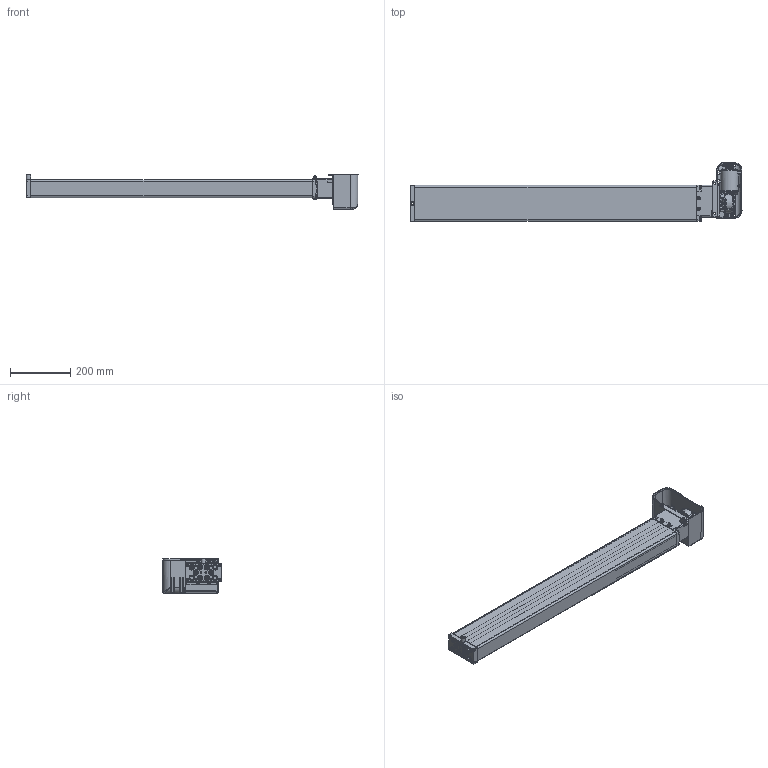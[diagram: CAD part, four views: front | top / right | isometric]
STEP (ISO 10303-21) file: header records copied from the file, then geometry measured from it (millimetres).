
FILE_DESCRIPTION(/* description */ ('Unknown'),/* implementation_level */ '2;1');
FILE_NAME(/* name */ '3X2.20267 Pumpe PB 7870 W mit Antrieb',/* time_stamp */ '2016-11-25T11:16:09+01:00',/* author */ ('Unknown'),/* organization */ ('Unknown'),/* preprocessor_version */ 'ST-DEVELOPER v16.7',/* originating_system */ 'DEX',/* authorisation */ $);
FILE_SCHEMA (('AUTOMOTIVE_DESIGN {1 0 10303 214 3 1 1}'));
Products named in the file (33): 102.00267; 115.10039; 125.00061; 115.00008; 142.00021; 125.00021; 142.00013; 125.00149; 115.00140; 126.00006; 122.00040; 119.00040; 126.00036; 127.00201; 127.00200; 127.00023; 124.00090; Getriebe; Ring; Schraube; Stator; Abdeckplatte; Antriebswelle; 128.00051; 123.00031; 142.00018; 142.00019; 142.00025; 142.00131; 123.00029; 142.00057; 142.00083; 142.00017
Assembly tree (54 placements, depth 3):
  102.00267
    115.10039  x7
      125.00061
      115.00008
      142.00021
      125.00021
    142.00013  x8
    125.00149
    115.00140
      126.00006
      122.00040
    119.00040
    126.00036
    127.00201
      127.00200
      127.00023
    124.00090
      Getriebe
      Ring
      Schraube
      Stator
      Abdeckplatte
      Antriebswelle
    128.00051
    123.00031
    142.00018  x2
    142.00019  x2
    142.00025  x2
    142.00131  x3
    123.00029
    142.00057
    142.00083  x4
    142.00017  x2
Bounding box: 1105.45 x 196.04 x 115.45 mm (x, y, z)
Volume: 1631574.6 mm3; surface area: 1092265.2 mm2
Topology: 61 solids, 63 shells, 4369 faces, 10949 edges, 6709 vertices
Faces by surface type: plane 1371, cylinder 1177, bspline 1040, cone 482, torus 202, sphere 97
Full cylindrical faces by diameter (mm): 2.5 x4, 3.2 x4, 3.5 x7, 3.9 x5, 4.1 x7, 4.134 x4, 4.2 x9, 4.4 x5, 4.5 x1, 4.917 x4, 5 x12, 5.5 x5, 5.8 x4, 6 x8, 6.4 x2, 6.8 x6, 6.917 x14, 7 x1, 8 x16, 8.5 x10, 9 x2, 9.5 x1, 9.8 x8, 10 x10, 10.3 x1, 10.32 x1, 10.4 x1, 10.5 x4, 11 x5, 12.5 x7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
Entity records: 165434 total; most frequent: CARTESIAN_POINT 80682, ORIENTED_EDGE 16058, DIRECTION 12091, EDGE_CURVE 8029, VERTEX_POINT 5273, AXIS2_PLACEMENT_3D 4680, FACE_BOUND 4022, EDGE_LOOP 4017
